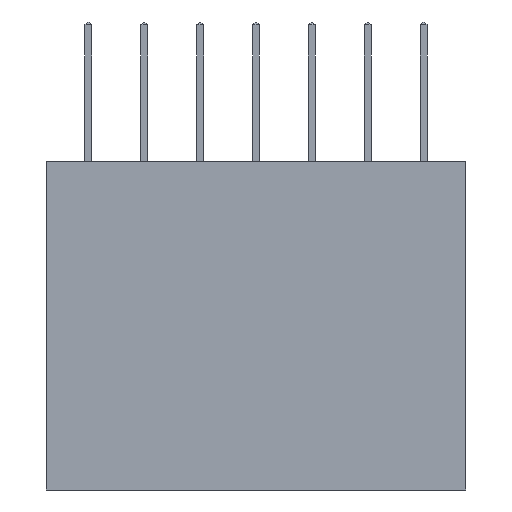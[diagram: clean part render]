
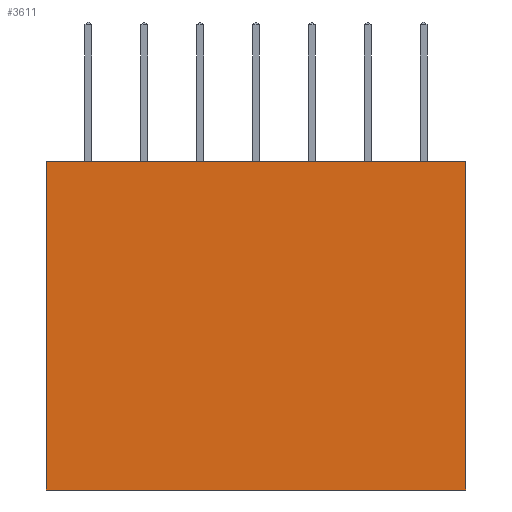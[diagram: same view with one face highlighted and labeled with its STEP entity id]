
A CAD part, left-side view. The second image highlights one B-rep face of the part: STEP entity #3611.
In plain terms, the highlighted planar face has unit normal (-1, 0, 0) as drawn and (1, 0, 0) by its records, which use the part's own axes.
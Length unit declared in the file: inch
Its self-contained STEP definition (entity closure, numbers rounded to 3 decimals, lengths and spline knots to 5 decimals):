
#3548=CARTESIAN_POINT('',(4.215,0.75,0.8));
#3549=VERTEX_POINT('',#3548);
#3556=CARTESIAN_POINT('',(4.215,0.75,-0.375));
#3557=VERTEX_POINT('',#3556);
#3558=CARTESIAN_POINT('',(4.215,0.75,-0.375));
#3559=DIRECTION('',(0.0,0.0,1.0));
#3560=VECTOR('',#3559,1.175);
#3561=LINE('',#3558,#3560);
#3562=EDGE_CURVE('',#3557,#3549,#3561,.T.);
#3581=CARTESIAN_POINT('',(4.215,0.75,-0.375));
#3582=DIRECTION('',(1.0,0.0,0.0));
#3583=DIRECTION('',(0.0,0.0,-1.0));
#3584=AXIS2_PLACEMENT_3D('',#3581,#3582,#3583);
#3585=PLANE('',#3584);
#3586=CARTESIAN_POINT('',(4.215,-0.75,0.8));
#3587=VERTEX_POINT('',#3586);
#3588=CARTESIAN_POINT('',(4.215,0.75,0.8));
#3589=DIRECTION('',(0.0,-1.0,0.0));
#3590=VECTOR('',#3589,1.5);
#3591=LINE('',#3588,#3590);
#3592=EDGE_CURVE('',#3549,#3587,#3591,.T.);
#3593=ORIENTED_EDGE('',*,*,#3592,.T.);
#3594=CARTESIAN_POINT('',(4.215,-0.75,-0.375));
#3595=VERTEX_POINT('',#3594);
#3596=CARTESIAN_POINT('',(4.215,-0.75,-0.375));
#3597=DIRECTION('',(0.0,0.0,1.0));
#3598=VECTOR('',#3597,1.175);
#3599=LINE('',#3596,#3598);
#3600=EDGE_CURVE('',#3595,#3587,#3599,.T.);
#3601=ORIENTED_EDGE('',*,*,#3600,.F.);
#3602=CARTESIAN_POINT('',(4.215,0.75,-0.375));
#3603=DIRECTION('',(0.0,-1.0,0.0));
#3604=VECTOR('',#3603,1.5);
#3605=LINE('',#3602,#3604);
#3606=EDGE_CURVE('',#3557,#3595,#3605,.T.);
#3607=ORIENTED_EDGE('',*,*,#3606,.F.);
#3608=ORIENTED_EDGE('',*,*,#3562,.T.);
#3609=EDGE_LOOP('',(#3593,#3601,#3607,#3608));
#3610=FACE_OUTER_BOUND('',#3609,.T.);
#3611=ADVANCED_FACE('',(#3610),#3585,.T.);
